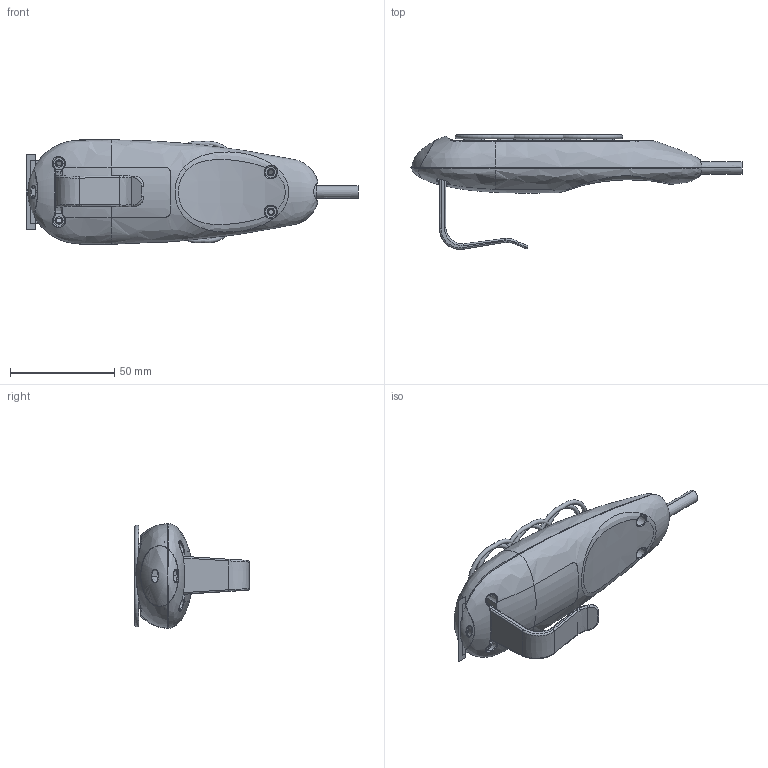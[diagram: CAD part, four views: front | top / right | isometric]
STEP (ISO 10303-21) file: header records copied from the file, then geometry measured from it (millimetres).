
FILE_DESCRIPTION((''),'2;1');
FILE_NAME('1','2014-06-05T',('tony'),(''),'PRO/ENGINEER BY PARAMETRIC TECHNOLOGY CORPORATION, 2008090','PRO/ENGINEER BY PARAMETRIC TECHNOLOGY CORPORATION, 2008090','');
FILE_SCHEMA(('CONFIG_CONTROL_DESIGN'));
Products named in the file (1): 1
Bounding box: 159.46 x 55.13 x 50.23 mm (x, y, z)
Surface area: 53512.1 mm2 (no closed solid volume)
Topology: 0 solids, 0 shells, 1214 faces, 6171 edges, 6147 vertices
Faces by surface type: bspline 1189, torus 21, sphere 4
Entity records: 157900 total; most frequent: CARTESIAN_POINT 108690, DIRECTION 6567, DEFINITIONAL_REPRESENTATION 6121, PCURVE 6121, COMPOSITE_CURVE_SEGMENT 6121, TRIMMED_CURVE 5655, VECTOR 4793, LINE 4793
